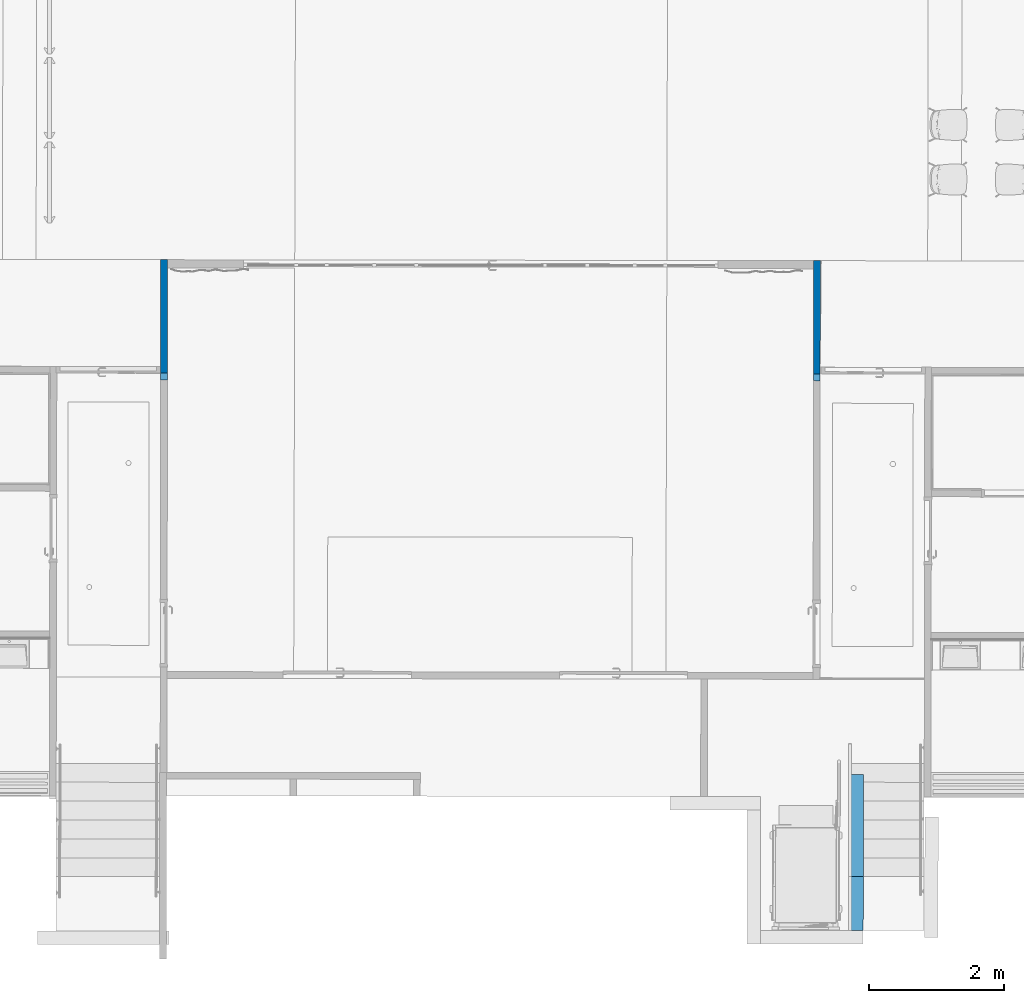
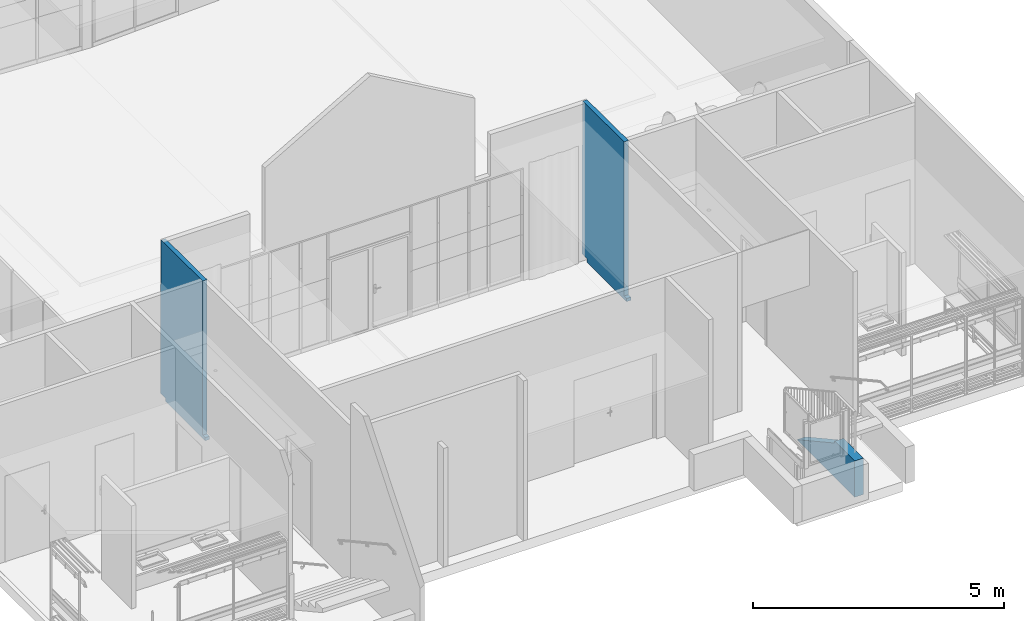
# One storey, part 25 of 43: 3 walls.
"""IFC2X3 building model written with IfcOpenShell, lengths in metres."""

from ifc_helpers import new_model, entity, si_unit, converted_unit, derived_unit, direction, frame, origin, place, context, subcontext, project, spatial, faceted_brep, material, layer, layer_set, type_object, element, save


model = new_model("IFC2X3")

# Units and contexts
model_context = context("Model", 3, precision=1e-05, world=origin(), true_north=direction((6.123233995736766e-17, 1.0)))
body_context = subcontext(model_context, "Body", "Model", "MODEL_VIEW")
ifc_project = project(units=[si_unit("LENGTHUNIT", "METRE"), si_unit("AREAUNIT", "SQUARE_METRE"), converted_unit("PLANEANGLEUNIT", "DEGREE", entity("IfcPlaneAngleMeasure", 0.017453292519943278), si_unit("PLANEANGLEUNIT", "RADIAN"), dimensions=[0, 0, 0, 0, 0, 0, 0]), derived_unit("THERMALTRANSMITTANCEUNIT", [(si_unit("MASSUNIT", "GRAM", prefix="KILO"), 1), (si_unit("THERMODYNAMICTEMPERATUREUNIT", "KELVIN"), -1), (si_unit("TIMEUNIT", "SECOND"), -3)])], contexts=[model_context])

# Site, building, storey
site_placement = place(None, frame((1253.6752467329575, 2072.143113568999, 91.49999999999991), z_axis=(0.0, 0.0, 1.0), x_axis=(0.7237211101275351, 0.6900925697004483, 0.0)))
site = spatial("IfcSite", under=ifc_project, at=site_placement, Name="Surface", CompositionType="ELEMENT")
building_placement = place(site_placement, origin())
building = spatial("IfcBuilding", under=site, at=building_placement, CompositionType="ELEMENT")
storey_placement = place(building_placement, frame((0.0, 0.0, -4.629999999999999)))
storey = spatial("IfcBuildingStorey", under=building, at=storey_placement, Name="rez de rue -1.10m", CompositionType="ELEMENT", Elevation=-4.629999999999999)

# Walls
ifc_material_1 = material(Name="OMD_Cloison 100mm CF1h")
ifc_layer_1 = layer(ifc_material_1, 0.1)
ifc_layer_set_1 = layer_set([ifc_layer_1], Name="Mur de base:Cloison 100mm CF1h")
wall_type_1 = type_object("IfcWallType", Name="Mur de base:Cloison 100mm CF1h", PredefinedType="STANDARD", material=ifc_layer_set_1)
wall_1_placement = place(storey_placement, frame((168.54461665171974, 1.4563624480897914, 0.0), z_axis=(0.0, 0.0, 1.0), x_axis=(0.6911544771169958, 0.7227070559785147, 0.0)))
element("IfcWall", 1, at=wall_1_placement, inside=storey, type_object=wall_type_1, Name="Mur de base:Cloison 100mm CF1h", ObjectType="Mur de base:Cloison 100mm CF1h", context=body_context, shape_type="Brep", body=[
    faceted_brep([(1.7605105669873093, -0.050000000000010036, 3.806799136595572), (0.09983536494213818, -0.05000000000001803, 3.8207864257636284), (0.09983536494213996, -0.050000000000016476, 0.08000000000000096), (2.3611774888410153e-05, -0.05000000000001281, 0.08000000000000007), (2.361177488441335e-05, -0.05000000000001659, 0.0), (1.580510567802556, -0.050000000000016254, 0.0), (1.5805105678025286, -0.04999999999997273, 0.08000000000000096), (1.7805105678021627, -0.05000000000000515, 0.08000000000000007), (1.7805105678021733, -0.04999999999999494, 2.7250000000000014), (1.7605105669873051, -0.05000000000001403, 2.7250000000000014), (0.09975879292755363, 0.05000000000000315, 3.8207870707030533), (1.7605105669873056, 0.050000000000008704, 3.806799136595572), (1.76051056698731, 0.05000000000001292, 2.7250000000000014), (1.780510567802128, 0.0499999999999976, 2.7250000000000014), (1.7805105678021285, 0.049999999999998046, 0.08000000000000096), (1.5805105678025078, 0.04999999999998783, 0.08000000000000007), (1.5805105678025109, 0.04999999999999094, 0.0), (0.0, 0.05000000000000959, 0.0), (0.0, 0.050000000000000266, 0.08000000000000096), (0.09975879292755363, 0.05000000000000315, 0.08000000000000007), (0.09975879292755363, 0.05000000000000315, 2.0900000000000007), (3.515869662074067e-07, 0.048510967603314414, 0.0), (3.5158696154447e-07, 0.048510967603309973, 0.08000000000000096), (0.09975991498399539, 0.04853463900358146, 0.08000000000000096)], [[[0, 1, 2, 3, 4, 5, 6, 7, 8, 9]], [[10, 11, 12, 13, 14, 15, 16, 17, 18, 19, 20]], [[1, 0, 11, 10]], [[5, 4, 21, 17, 16]], [[19, 18, 22, 3, 2, 23]], [[4, 3, 22, 18, 17, 21]], [[2, 1, 10, 20, 19, 23]], [[7, 6, 15, 14]], [[9, 8, 13, 12]], [[6, 5, 16, 15]], [[8, 7, 14, 13]], [[0, 9, 12, 11]]]),
])
wall_2_placement = place(storey_placement, frame((175.53387409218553, -5.224576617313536, 0.0), z_axis=(0.0, 0.0, 1.0), x_axis=(0.6909838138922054, 0.7228702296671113, 0.0)))
element("IfcWall", 2, at=wall_2_placement, inside=storey, type_object=wall_type_1, Name="Mur de base:Cloison 100mm CF1h", ObjectType="Mur de base:Cloison 100mm CF1h", context=body_context, shape_type="Brep", body=[
    faceted_brep([(0.0, -0.04999999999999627, 0.0), (0.19999999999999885, -0.04999999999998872, 0.0), (1.5782040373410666, -0.049999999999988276, 0.0), (1.5782040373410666, -0.049999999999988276, 0.08000000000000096), (1.7782040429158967, -0.04999999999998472, 0.08000000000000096), (1.778204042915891, -0.049999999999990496, 2.7250000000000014), (1.7570999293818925, -0.04999999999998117, 2.7250000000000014), (1.757099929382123, -0.04999999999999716, 3.8068550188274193), (0.20378259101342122, -0.04999999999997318, 3.820681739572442), (0.10378258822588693, -0.05000000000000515, 3.821571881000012), (0.09999999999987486, -0.050000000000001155, 3.821605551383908), (0.09999999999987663, -0.04999999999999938, 0.08000000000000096), (0.0, -0.0499999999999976, 0.08000000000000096), (0.0, 0.05000000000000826, 0.0), (0.0, 0.05000000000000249, 0.08000000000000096), (0.09999999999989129, 0.04999999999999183, 0.08000000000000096), (0.09999999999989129, 0.04999999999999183, 3.821605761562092), (1.7571235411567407, 0.05000000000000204, 3.806855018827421), (1.7571235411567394, 0.05000000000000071, 2.7250000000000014), (1.7782276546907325, 0.0499999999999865, 2.7250000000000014), (1.778227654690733, 0.0499999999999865, 0.08000000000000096), (1.578227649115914, 0.04999999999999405, 0.08000000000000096), (1.578227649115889, 0.049999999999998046, 0.0)], [[[0, 1, 2, 3, 4, 5, 6, 7, 8, 9, 10, 11, 12]], [[13, 14, 15, 16, 17, 18, 19, 20, 21, 22]], [[2, 1, 0, 13, 22]], [[10, 9, 8, 7, 17, 16]], [[11, 10, 16, 15]], [[11, 15, 14, 12]], [[0, 12, 14, 13]], [[20, 4, 3, 21]], [[18, 6, 5, 19]], [[3, 2, 22, 21]], [[5, 4, 20, 19]], [[7, 6, 18, 17]]]),
])
ifc_material_2 = material(Name="Béton - Béton coulé sur place")
ifc_layer_2 = layer(ifc_material_2, 0.2)
ifc_layer_set_2 = layer_set([ifc_layer_2], Name="Mur de base:BA 20")
wall_type_2 = type_object("IfcWallType", Name="Mur de base:BA 20", PredefinedType="STANDARD", material=ifc_layer_set_2)
wall_3_placement = place(storey_placement, frame((170.34223698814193, -11.520312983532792, 0.0), z_axis=(0.0, 0.0, 1.0), x_axis=(0.6909838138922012, 0.7228702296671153, 0.0)))
element("IfcWall", 3, at=wall_3_placement, inside=storey, type_object=wall_type_2, Name="Mur de base:BA 20", ObjectType="Mur de base:BA 20", context=body_context, shape_type="Brep", body=[
    faceted_brep([(0.00020585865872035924, -0.10000000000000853, 0.0), (2.3078338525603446, -0.10000000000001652, 0.0), (0.7986009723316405, -0.10000000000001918, 0.8316181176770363), (0.7986009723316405, -0.10000000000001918, 0.8799999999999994), (0.00020585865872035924, -0.10000000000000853, 0.8799999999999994), (0.0, 0.09999999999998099, 0.0), (0.0, 0.09999999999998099, 0.8799999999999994), (0.7986009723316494, 0.09999999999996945, 0.8799999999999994), (0.7986009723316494, 0.09999999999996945, 0.8316181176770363), (2.3078338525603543, 0.099999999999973, 0.0)], [[[0, 1, 2, 3, 4]], [[5, 6, 7, 8, 9]], [[4, 3, 7, 6]], [[1, 0, 5, 9]], [[0, 4, 6, 5]], [[2, 1, 9, 8]], [[3, 2, 8, 7]]]),
])

save(model, "model.ifc")
